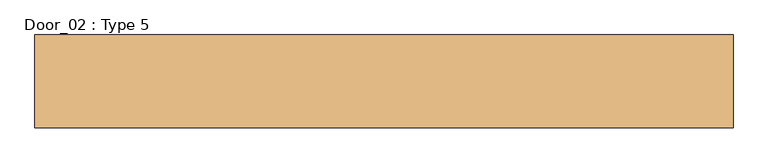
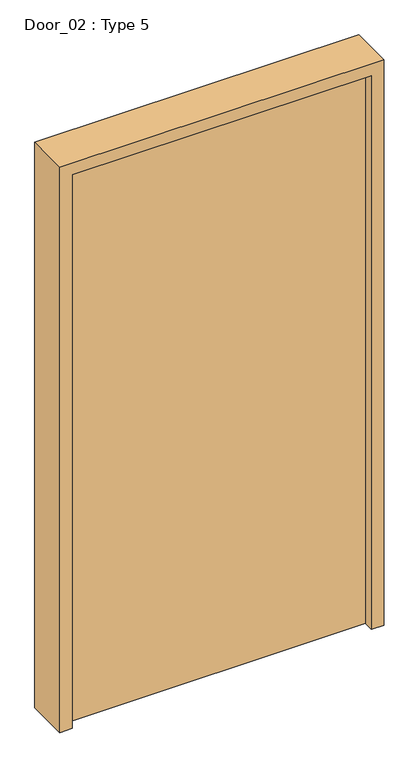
"""IFC4 building model written with IfcOpenShell, lengths in millimetres: door geometry, Door_02 : Type 5."""

import ifcopenshell
import ifcopenshell.guid

model = None  # the IFC model being written
_history = None  # IfcOwnerHistory: only IFC2X3 demands one
_inside = {}  # id of a spatial element -> (the spatial element, [elements in it])
_under = {}  # id of a project, library or spatial element -> (it, [spatial elements below it])
_declared = {}  # id of a project -> (the project, [libraries it declares])
_typed = {}  # id of a type object -> (the type object, [elements of that type])
_made_of = {}  # id of a material, layer set ... -> (it, [elements and type objects made of it])


def new_model(schema):
    """Start an empty IFC model of exactly this schema.

    Asked for "IFC4X3", IfcOpenShell would pick the latest addendum, in which some entities
    have other attributes; the version numbers below select the first issue.
    IFC2X3 requires an IfcOwnerHistory on every rooted entity: one is made here for all.
    """
    global model, _history
    if schema == "IFC4X3":
        model = ifcopenshell.file(schema_version=(4, 3, 0, 0))
    else:
        model = ifcopenshell.file(schema=schema)
    _inside.clear()
    _under.clear()
    _declared.clear()
    _typed.clear()
    _made_of.clear()
    _history = None
    if model.schema == "IFC2X3":
        org = make("IfcOrganization", Name="unknown")
        user = make(
            "IfcPersonAndOrganization",
            ThePerson=make("IfcPerson", FamilyName="unknown"),
            TheOrganization=org,
        )
        app = make(
            "IfcApplication",
            ApplicationDeveloper=org,
            Version="unknown",
            ApplicationFullName="unknown",
            ApplicationIdentifier="unknown",
        )
        _history = make(
            "IfcOwnerHistory",
            OwningUser=user,
            OwningApplication=app,
            ChangeAction="ADDED",
            CreationDate=0,
        )
    return model


def make(cls, **values):
    """One entity of the class cls with the attributes given. An attribute that is None is left unset."""
    return model.create_entity(
        cls, **{name: value for name, value in values.items() if value is not None}
    )


def rooted(cls, **values):
    """An entity with a GlobalId (a new one), such as an element, a storey or a relation."""
    return make(cls, GlobalId=ifcopenshell.guid.new(), OwnerHistory=_history, **values)


def si_unit(unit_type, name, prefix=None):
    """IfcSIUnit, for example si_unit("LENGTHUNIT", "METRE", prefix="MILLI")."""
    return make("IfcSIUnit", UnitType=unit_type, Prefix=prefix, Name=name)


def assignment(units):
    """IfcUnitAssignment: the units of a project."""
    return None if units is None else make("IfcUnitAssignment", Units=units)


def point(xyz):
    """IfcCartesianPoint."""
    return None if xyz is None else make("IfcCartesianPoint", Coordinates=xyz)


def direction(xyz):
    """IfcDirection."""
    return None if xyz is None else make("IfcDirection", DirectionRatios=xyz)


def frame(location, z_axis=None, x_axis=None):
    """IfcAxis2Placement3D, a coordinate frame: its origin and axes. An axis left out is left unset."""
    return make(
        "IfcAxis2Placement3D",
        Location=point(location),
        Axis=direction(z_axis),
        RefDirection=direction(x_axis),
    )


def origin():
    """The frame at (0, 0, 0) with its axes left unset."""
    return frame((0.0, 0.0, 0.0))


def origin_with_axes():
    """The frame at (0, 0, 0) with the z axis (0, 0, 1) and the x axis (1, 0, 0) written out."""
    return frame((0.0, 0.0, 0.0), z_axis=(0.0, 0.0, 1.0), x_axis=(1.0, 0.0, 0.0))


def place(relative_to, where):
    """IfcLocalPlacement: puts the frame where relative to a parent placement (None: the world)."""
    return make(
        "IfcLocalPlacement", PlacementRelTo=relative_to, RelativePlacement=where
    )


def context(
    kind, dimensions, precision=None, world=None, true_north=None, identifier=None
):
    """IfcGeometricRepresentationContext, for example the 3D "Model" context."""
    return make(
        "IfcGeometricRepresentationContext",
        ContextIdentifier=identifier,
        ContextType=kind,
        CoordinateSpaceDimension=dimensions,
        Precision=precision,
        WorldCoordinateSystem=world,
        TrueNorth=true_north,
    )


def project(units=None, contexts=None):
    """IfcProject with its units and contexts."""
    return rooted(
        "IfcProject",
        Name="project",
        RepresentationContexts=contexts,
        UnitsInContext=assignment(units),
    )


def spatial(cls, under=None, at=None, **own):
    """A site, building, storey or space (cls), placed at a placement, below another one or the project."""
    s = rooted(cls, ObjectPlacement=at, **own)
    if under is not None:
        _under.setdefault(under.id(), (under, []))[1].append(s)
    return s


def polyline(points):
    """IfcPolyline through the points."""
    return make("IfcPolyline", Points=[point(p) for p in points])


def outline(outer, holes=None, kind="AREA"):
    """IfcArbitraryClosedProfileDef: a profile drawn as a closed curve; with holes, ...WithVoids."""
    if holes is None:
        return make("IfcArbitraryClosedProfileDef", ProfileType=kind, OuterCurve=outer)
    return make(
        "IfcArbitraryProfileDefWithVoids",
        ProfileType=kind,
        OuterCurve=outer,
        InnerCurves=holes,
    )


def extrude(swept, where, along, depth):
    """IfcExtrudedAreaSolid: the profile swept, set in the frame where, extruded along a direction by depth."""
    return make(
        "IfcExtrudedAreaSolid",
        SweptArea=swept,
        Position=where,
        ExtrudedDirection=direction(along),
        Depth=depth,
    )


def shape(context_of_items, identifier, shape_type, items):
    """IfcShapeRepresentation: the items that make up one representation, for example the "Body"."""
    return make(
        "IfcShapeRepresentation",
        ContextOfItems=context_of_items,
        RepresentationIdentifier=identifier,
        RepresentationType=shape_type,
        Items=items,
    )


def source(mapping_origin, context_of_items, identifier, shape_type, items):
    """IfcRepresentationMap: a shape defined once, which mapped items show again and again."""
    return make(
        "IfcRepresentationMap",
        MappingOrigin=mapping_origin,
        MappedRepresentation=shape(context_of_items, identifier, shape_type, items),
    )


def transform(
    local_origin,
    x_axis=None,
    y_axis=None,
    z_axis=None,
    scale=None,
    scale2=None,
    scale3=None,
    uniform=True,
):
    """IfcCartesianTransformationOperator3D, or its non-uniform kind. x_axis, y_axis, z_axis: its Axis1, 2, 3."""
    if uniform:
        return make(
            "IfcCartesianTransformationOperator3D",
            Axis1=direction(x_axis),
            Axis2=direction(y_axis),
            LocalOrigin=point(local_origin),
            Scale=scale,
            Axis3=direction(z_axis),
        )
    return make(
        "IfcCartesianTransformationOperator3DnonUniform",
        Axis1=direction(x_axis),
        Axis2=direction(y_axis),
        LocalOrigin=point(local_origin),
        Scale=scale,
        Axis3=direction(z_axis),
        Scale2=scale2,
        Scale3=scale3,
    )


def mapped(mapping_source, mapping_target):
    """IfcMappedItem: shows the shape of a source again, moved by a transform."""
    return make(
        "IfcMappedItem", MappingSource=mapping_source, MappingTarget=mapping_target
    )


def made_of(thing, what):
    """Note that an element or type object is made of a material, layer set ...; save() writes the relation."""
    if what is not None:
        _made_of.setdefault(what.id(), (what, []))[1].append(thing)
    return thing


def element(
    cls,
    number,
    at=None,
    inside=None,
    cuts=None,
    type_object=None,
    material=None,
    context=None,
    identifier="Body",
    shape_type=None,
    held_by="IfcProductDefinitionShape",
    body=None,
    shapes=None,
    **own,
):
    """One element of the class cls, such as IfcWall. Its Tag is "e" and its number.

    at: its placement. inside: the storey or other place that contains it. cuts: it is an
    opening in that element (IfcRelVoidsElement). A single representation is given by context,
    identifier, shape_type and body (its items); several are given by shapes. held_by: the class
    of the entity that holds the representations. save() writes the other relations.
    """
    e = rooted(cls, Tag="e%d" % number, ObjectPlacement=at, **own)
    if body is not None:
        shapes = [shape(context, identifier, shape_type, body)]
    if shapes is not None:
        e.Representation = make(held_by, Representations=shapes)
    if inside is not None:
        _inside.setdefault(inside.id(), (inside, []))[1].append(e)
    if cuts is not None:
        rooted(
            "IfcRelVoidsElement", RelatingBuildingElement=cuts, RelatedOpeningElement=e
        )
    if type_object is not None:
        _typed.setdefault(type_object.id(), (type_object, []))[1].append(e)
    return made_of(e, material)


def aggregate(whole, parts):
    """IfcRelAggregates: a whole, such as a stair, and the parts it consists of."""
    return rooted("IfcRelAggregates", RelatingObject=whole, RelatedObjects=parts)


def save(model, path):
    """Write the relations noted so far, then the file.

    IfcRelAggregates (storeys below a building ...), IfcRelContainedInSpatialStructure (elements
    in a storey), IfcRelDefinesByType, IfcRelAssociatesMaterial and IfcRelDeclares: one each for
    every whole, place, type object, material and project.
    """
    for whole, parts in _under.values():
        aggregate(whole, parts)
    for where, things in _inside.values():
        rooted(
            "IfcRelContainedInSpatialStructure",
            RelatedElements=things,
            RelatingStructure=where,
        )
    for kind, things in _typed.values():
        rooted("IfcRelDefinesByType", RelatedObjects=things, RelatingType=kind)
    for what, things in _made_of.values():
        rooted("IfcRelAssociatesMaterial", RelatedObjects=things, RelatingMaterial=what)
    for by, libraries in _declared.values():
        rooted("IfcRelDeclares", RelatingContext=by, RelatedDefinitions=libraries)
    model.write(path)


def door_02_type_5_3aaab429(model_context):
    return source(origin(), model_context, "Body", "SweptSolid", [
        extrude(outline(polyline([(590.0, 170.0), (-590.0, 170.0), (-590.0, 250.0), (590.0, 250.0), (590.0, 170.0)])), origin_with_axes(), (0.0, 0.0, 1.0), 2310.0),
        extrude(outline(polyline([(2360.0, -640.0), (0.0, -640.0), (0.0, -590.0), (2310.0, -590.0), (2310.0, 590.0), (0.0, 590.0), (0.0, 640.0), (2360.0, 640.0), (2360.0, -640.0)])), frame((0.0, 130.0, 0.0), z_axis=(0.0, 1.0, 0.0), x_axis=(0.0, 0.0, 1.0)), (0.0, 0.0, 1.0), 170.0),
    ])


if __name__ == "__main__":
    model = new_model("IFC4")
    model_context = context("Model", 3, world=origin())
    ifc_project = project(units=[si_unit("LENGTHUNIT", "METRE", prefix="MILLI")], contexts=[model_context])
    site = spatial("IfcSite", under=ifc_project)
    building = spatial("IfcBuilding", under=site)
    placement = place(None, origin())
    door_02_type_5_shape = door_02_type_5_3aaab429(model_context)
    element("IfcDoor", 1, ObjectType="Door_02 : Type 5", at=placement, inside=building, context=model_context, shape_type="MappedRepresentation", body=[
        mapped(door_02_type_5_shape, transform((0.0, 0.0, 0.0), x_axis=(1.0, 0.0, 0.0), y_axis=(0.0, 1.0, 0.0), z_axis=(0.0, 0.0, 1.0))),
    ])
    save(model, "model.ifc")
